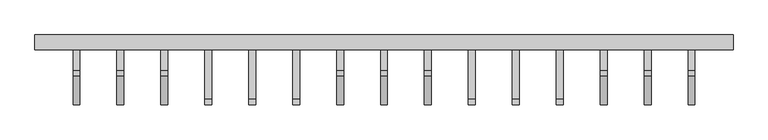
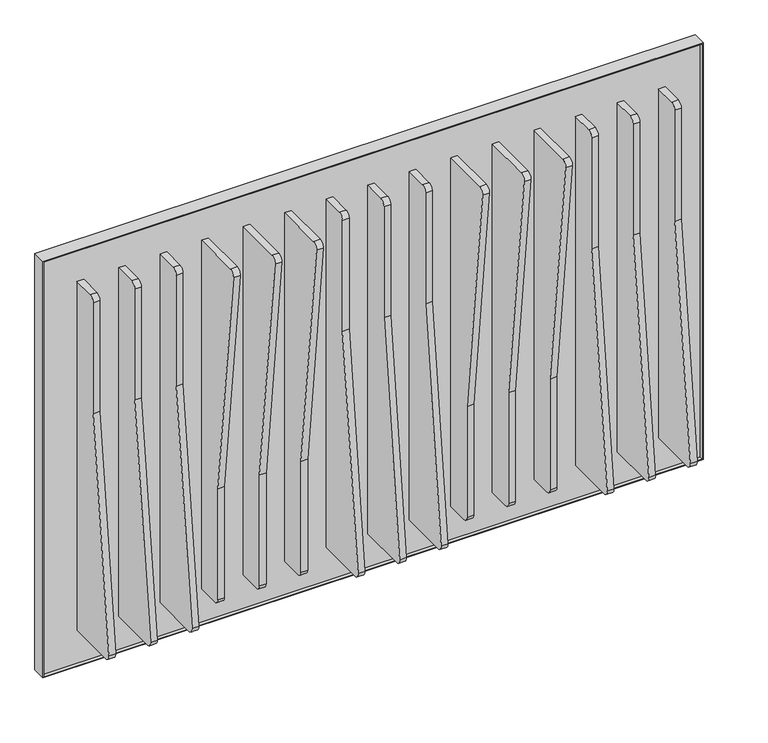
"""IFC4 building model written with IfcOpenShell, lengths in millimetres: proxy geometry, Frames_Plungle 5.3dm."""

from ifc_helpers import new_model, si_unit, point, frame, frame_2d, origin, place, context, project, spatial, polyline, circle_curve, trimmed, segment, composite_curve, outline, extrude, source, transform, mapped, element, save


def generic_models_a66e9d63(model_context):
    return source(origin(), model_context, "Body", "SweptSolid", [
        extrude(outline(composite_curve([segment(trimmed(circle_curve(frame_2d((109.527821, 643.1846741)), 10.0), [point((109.527821, 633.1846741))], [point((99.527821, 643.1846741))], False, "CARTESIAN"), True, "CONTINUOUS"), segment(polyline([(99.527821, 643.1846741), (99.527821, 857.3513408), (49.9884784, 1294.558793)]), True, "CONTINUOUS"), segment(trimmed(circle_curve(frame_2d((59.9248959, 1295.6846741)), 10.0), [point((49.9884784, 1294.558793))], [point((59.9248959, 1305.6846741))], False, "CARTESIAN"), True, "CONTINUOUS"), segment(polyline([(59.9248959, 1305.6846741), (151.027821, 1305.6846741), (151.027821, 633.1846741), (109.527821, 633.1846741)]), True, "CONTINUOUS")], self_intersect=False)), frame((3902.9725836, 0.0, 0.0), z_axis=(1.0, 0.0, 0.0), x_axis=(0.0, 1.0, 0.0)), (0.0, 0.0, 1.0), 12.0),
        extrude(outline(composite_curve([segment(trimmed(circle_curve(frame_2d((109.527821, 643.1846741)), 10.0), [point((109.527821, 633.1846741))], [point((99.527821, 643.1846741))], False, "CARTESIAN"), True, "CONTINUOUS"), segment(polyline([(99.527821, 643.1846741), (99.527821, 857.3513408), (49.9884784, 1294.558793)]), True, "CONTINUOUS"), segment(trimmed(circle_curve(frame_2d((59.9248959, 1295.6846741)), 10.0), [point((49.9884784, 1294.558793))], [point((59.9248959, 1305.6846741))], False, "CARTESIAN"), True, "CONTINUOUS"), segment(polyline([(59.9248959, 1305.6846741), (151.027821, 1305.6846741), (151.027821, 633.1846741), (109.527821, 633.1846741)]), True, "CONTINUOUS")], self_intersect=False)), frame((3978.7225836, 0.0, 0.0), z_axis=(1.0, 0.0, 0.0), x_axis=(0.0, 1.0, 0.0)), (0.0, 0.0, 1.0), 12.0),
        extrude(outline(composite_curve([segment(trimmed(circle_curve(frame_2d((109.527821, 643.1846741)), 10.0), [point((109.527821, 633.1846741))], [point((99.527821, 643.1846741))], False, "CARTESIAN"), True, "CONTINUOUS"), segment(polyline([(99.527821, 643.1846741), (99.527821, 857.3513408), (49.9884784, 1294.558793)]), True, "CONTINUOUS"), segment(trimmed(circle_curve(frame_2d((59.9248959, 1295.6846741)), 10.0), [point((49.9884784, 1294.558793))], [point((59.9248959, 1305.6846741))], False, "CARTESIAN"), True, "CONTINUOUS"), segment(polyline([(59.9248959, 1305.6846741), (151.027821, 1305.6846741), (151.027821, 633.1846741), (109.527821, 633.1846741)]), True, "CONTINUOUS")], self_intersect=False)), frame((4054.4725836, 0.0, 0.0), z_axis=(1.0, 0.0, 0.0), x_axis=(0.0, 1.0, 0.0)), (0.0, 0.0, 1.0), 12.0),
        extrude(outline(composite_curve([segment(trimmed(circle_curve(frame_2d((109.527821, 643.1846741)), 10.0), [point((109.527821, 633.1846741))], [point((99.527821, 643.1846741))], False, "CARTESIAN"), True, "CONTINUOUS"), segment(polyline([(99.527821, 643.1846741), (99.527821, 857.3513408), (49.9884784, 1294.558793)]), True, "CONTINUOUS"), segment(trimmed(circle_curve(frame_2d((59.9248959, 1295.6846741)), 10.0), [point((49.9884784, 1294.558793))], [point((59.9248959, 1305.6846741))], False, "CARTESIAN"), True, "CONTINUOUS"), segment(polyline([(59.9248959, 1305.6846741), (151.027821, 1305.6846741), (151.027821, 633.1846741), (109.527821, 633.1846741)]), True, "CONTINUOUS")], self_intersect=False)), frame((3448.4723487, 0.0, 0.0), z_axis=(1.0, 0.0, 0.0), x_axis=(0.0, 1.0, 0.0)), (0.0, 0.0, 1.0), 12.0),
        extrude(outline(composite_curve([segment(trimmed(circle_curve(frame_2d((109.527821, 643.1846741)), 10.0), [point((109.527821, 633.1846741))], [point((99.527821, 643.1846741))], False, "CARTESIAN"), True, "CONTINUOUS"), segment(polyline([(99.527821, 643.1846741), (99.527821, 857.3513408), (49.9884784, 1294.558793)]), True, "CONTINUOUS"), segment(trimmed(circle_curve(frame_2d((59.9248959, 1295.6846741)), 10.0), [point((49.9884784, 1294.558793))], [point((59.9248959, 1305.6846741))], False, "CARTESIAN"), True, "CONTINUOUS"), segment(polyline([(59.9248959, 1305.6846741), (151.027821, 1305.6846741), (151.027821, 633.1846741), (109.527821, 633.1846741)]), True, "CONTINUOUS")], self_intersect=False)), frame((3524.2223487, 0.0, 0.0), z_axis=(1.0, 0.0, 0.0), x_axis=(0.0, 1.0, 0.0)), (0.0, 0.0, 1.0), 12.0),
        extrude(outline(composite_curve([segment(trimmed(circle_curve(frame_2d((109.527821, 643.1846741)), 10.0), [point((109.527821, 633.1846741))], [point((99.527821, 643.1846741))], False, "CARTESIAN"), True, "CONTINUOUS"), segment(polyline([(99.527821, 643.1846741), (99.527821, 857.3513408), (49.9884784, 1294.558793)]), True, "CONTINUOUS"), segment(trimmed(circle_curve(frame_2d((59.9248959, 1295.6846741)), 10.0), [point((49.9884784, 1294.558793))], [point((59.9248959, 1305.6846741))], False, "CARTESIAN"), True, "CONTINUOUS"), segment(polyline([(59.9248959, 1305.6846741), (151.027821, 1305.6846741), (151.027821, 633.1846741), (109.527821, 633.1846741)]), True, "CONTINUOUS")], self_intersect=False)), frame((3599.9723487, 0.0, 0.0), z_axis=(1.0, 0.0, 0.0), x_axis=(0.0, 1.0, 0.0)), (0.0, 0.0, 1.0), 12.0),
        extrude(outline(composite_curve([segment(polyline([(109.527821, 1305.6846584), (151.027821, 1305.6846584), (151.027821, 633.1846584), (59.9248959, 633.1846584)]), True, "CONTINUOUS"), segment(trimmed(circle_curve(frame_2d((59.9248959, 643.1846584)), 10.0), [point((59.9248959, 633.1846584))], [point((49.9884784, 644.3105395))], False, "CARTESIAN"), True, "CONTINUOUS"), segment(polyline([(49.9884784, 644.3105395), (99.527821, 1081.5179917), (99.527821, 1295.6846584)]), True, "CONTINUOUS"), segment(trimmed(circle_curve(frame_2d((109.527821, 1295.6846584)), 10.0), [point((99.527821, 1295.6846584))], [point((109.527821, 1305.6846584))], False, "CARTESIAN"), True, "CONTINUOUS")], self_intersect=False)), frame((3221.2222082, 0.0, 0.0), z_axis=(1.0, 0.0, 0.0), x_axis=(0.0, 1.0, 0.0)), (0.0, 0.0, 1.0), 12.0),
        extrude(outline(composite_curve([segment(polyline([(109.527821, 1305.6846584), (151.027821, 1305.6846584), (151.027821, 633.1846584), (59.9248959, 633.1846584)]), True, "CONTINUOUS"), segment(trimmed(circle_curve(frame_2d((59.9248959, 643.1846584)), 10.0), [point((59.9248959, 633.1846584))], [point((49.9884784, 644.3105395))], False, "CARTESIAN"), True, "CONTINUOUS"), segment(polyline([(49.9884784, 644.3105395), (99.527821, 1081.5179917), (99.527821, 1295.6846584)]), True, "CONTINUOUS"), segment(trimmed(circle_curve(frame_2d((109.527821, 1295.6846584)), 10.0), [point((99.527821, 1295.6846584))], [point((109.527821, 1305.6846584))], False, "CARTESIAN"), True, "CONTINUOUS")], self_intersect=False)), frame((3296.9722082, 0.0, 0.0), z_axis=(1.0, 0.0, 0.0), x_axis=(0.0, 1.0, 0.0)), (0.0, 0.0, 1.0), 12.0),
        extrude(outline(composite_curve([segment(polyline([(109.527821, 1305.6846584), (151.027821, 1305.6846584), (151.027821, 633.1846584), (59.9248959, 633.1846584)]), True, "CONTINUOUS"), segment(trimmed(circle_curve(frame_2d((59.9248959, 643.1846584)), 10.0), [point((59.9248959, 633.1846584))], [point((49.9884784, 644.3105395))], False, "CARTESIAN"), True, "CONTINUOUS"), segment(polyline([(49.9884784, 644.3105395), (99.527821, 1081.5179917), (99.527821, 1295.6846584)]), True, "CONTINUOUS"), segment(trimmed(circle_curve(frame_2d((109.527821, 1295.6846584)), 10.0), [point((99.527821, 1295.6846584))], [point((109.527821, 1305.6846584))], False, "CARTESIAN"), True, "CONTINUOUS")], self_intersect=False)), frame((3372.7222082, 0.0, 0.0), z_axis=(1.0, 0.0, 0.0), x_axis=(0.0, 1.0, 0.0)), (0.0, 0.0, 1.0), 12.0),
        extrude(outline(composite_curve([segment(polyline([(109.527821, 1305.6846584), (151.027821, 1305.6846584), (151.027821, 633.1846584), (59.9248959, 633.1846584)]), True, "CONTINUOUS"), segment(trimmed(circle_curve(frame_2d((59.9248959, 643.1846584)), 10.0), [point((59.9248959, 633.1846584))], [point((49.9884784, 644.3105395))], False, "CARTESIAN"), True, "CONTINUOUS"), segment(polyline([(49.9884784, 644.3105395), (99.527821, 1081.5179917), (99.527821, 1295.6846584)]), True, "CONTINUOUS"), segment(trimmed(circle_curve(frame_2d((109.527821, 1295.6846584)), 10.0), [point((99.527821, 1295.6846584))], [point((109.527821, 1305.6846584))], False, "CARTESIAN"), True, "CONTINUOUS")], self_intersect=False)), frame((3675.7222082, 0.0, 0.0), z_axis=(1.0, 0.0, 0.0), x_axis=(0.0, 1.0, 0.0)), (0.0, 0.0, 1.0), 12.0),
        extrude(outline(composite_curve([segment(polyline([(109.527821, 1305.6846584), (151.027821, 1305.6846584), (151.027821, 633.1846584), (59.9248959, 633.1846584)]), True, "CONTINUOUS"), segment(trimmed(circle_curve(frame_2d((59.9248959, 643.1846584)), 10.0), [point((59.9248959, 633.1846584))], [point((49.9884784, 644.3105395))], False, "CARTESIAN"), True, "CONTINUOUS"), segment(polyline([(49.9884784, 644.3105395), (99.527821, 1081.5179917), (99.527821, 1295.6846584)]), True, "CONTINUOUS"), segment(trimmed(circle_curve(frame_2d((109.527821, 1295.6846584)), 10.0), [point((99.527821, 1295.6846584))], [point((109.527821, 1305.6846584))], False, "CARTESIAN"), True, "CONTINUOUS")], self_intersect=False)), frame((3751.4722082, 0.0, 0.0), z_axis=(1.0, 0.0, 0.0), x_axis=(0.0, 1.0, 0.0)), (0.0, 0.0, 1.0), 12.0),
        extrude(outline(composite_curve([segment(polyline([(109.527821, 1305.6846584), (151.027821, 1305.6846584), (151.027821, 633.1846584), (59.9248959, 633.1846584)]), True, "CONTINUOUS"), segment(trimmed(circle_curve(frame_2d((59.9248959, 643.1846584)), 10.0), [point((59.9248959, 633.1846584))], [point((49.9884784, 644.3105395))], False, "CARTESIAN"), True, "CONTINUOUS"), segment(polyline([(49.9884784, 644.3105395), (99.527821, 1081.5179917), (99.527821, 1295.6846584)]), True, "CONTINUOUS"), segment(trimmed(circle_curve(frame_2d((109.527821, 1295.6846584)), 10.0), [point((99.527821, 1295.6846584))], [point((109.527821, 1305.6846584))], False, "CARTESIAN"), True, "CONTINUOUS")], self_intersect=False)), frame((3827.2222082, 0.0, 0.0), z_axis=(1.0, 0.0, 0.0), x_axis=(0.0, 1.0, 0.0)), (0.0, 0.0, 1.0), 12.0),
        extrude(outline(composite_curve([segment(polyline([(109.527821, 1305.6846584), (151.027821, 1305.6846584), (151.027821, 633.1846584), (59.9248959, 633.1846584)]), True, "CONTINUOUS"), segment(trimmed(circle_curve(frame_2d((59.9248959, 643.1846584)), 10.0), [point((59.9248959, 633.1846584))], [point((49.9884784, 644.3105395))], False, "CARTESIAN"), True, "CONTINUOUS"), segment(polyline([(49.9884784, 644.3105395), (99.527821, 1081.5179917), (99.527821, 1295.6846584)]), True, "CONTINUOUS"), segment(trimmed(circle_curve(frame_2d((109.527821, 1295.6846584)), 10.0), [point((99.527821, 1295.6846584))], [point((109.527821, 1305.6846584))], False, "CARTESIAN"), True, "CONTINUOUS")], self_intersect=False)), frame((4130.2222082, 0.0, 0.0), z_axis=(1.0, 0.0, 0.0), x_axis=(0.0, 1.0, 0.0)), (0.0, 0.0, 1.0), 12.0),
        extrude(outline(composite_curve([segment(polyline([(109.527821, 1305.6846584), (151.027821, 1305.6846584), (151.027821, 633.1846584), (59.9248959, 633.1846584)]), True, "CONTINUOUS"), segment(trimmed(circle_curve(frame_2d((59.9248959, 643.1846584)), 10.0), [point((59.9248959, 633.1846584))], [point((49.9884784, 644.3105395))], False, "CARTESIAN"), True, "CONTINUOUS"), segment(polyline([(49.9884784, 644.3105395), (99.527821, 1081.5179917), (99.527821, 1295.6846584)]), True, "CONTINUOUS"), segment(trimmed(circle_curve(frame_2d((109.527821, 1295.6846584)), 10.0), [point((99.527821, 1295.6846584))], [point((109.527821, 1305.6846584))], False, "CARTESIAN"), True, "CONTINUOUS")], self_intersect=False)), frame((4205.9722082, 0.0, 0.0), z_axis=(1.0, 0.0, 0.0), x_axis=(0.0, 1.0, 0.0)), (0.0, 0.0, 1.0), 12.0),
        extrude(outline(composite_curve([segment(polyline([(109.527821, 1305.6846584), (151.027821, 1305.6846584), (151.027821, 633.1846584), (59.9248959, 633.1846584)]), True, "CONTINUOUS"), segment(trimmed(circle_curve(frame_2d((59.9248959, 643.1846584)), 10.0), [point((59.9248959, 633.1846584))], [point((49.9884784, 644.3105395))], False, "CARTESIAN"), True, "CONTINUOUS"), segment(polyline([(49.9884784, 644.3105395), (99.527821, 1081.5179917), (99.527821, 1295.6846584)]), True, "CONTINUOUS"), segment(trimmed(circle_curve(frame_2d((109.527821, 1295.6846584)), 10.0), [point((99.527821, 1295.6846584))], [point((109.527821, 1305.6846584))], False, "CARTESIAN"), True, "CONTINUOUS")], self_intersect=False)), frame((4281.7222082, 0.0, 0.0), z_axis=(1.0, 0.0, 0.0), x_axis=(0.0, 1.0, 0.0)), (0.0, 0.0, 1.0), 12.0),
        extrude(outline(polyline([(4357.4722082, 151.027821), (3157.4722082, 151.027821), (3157.4722082, 163.027821), (4357.4722082, 163.027821), (4357.4722082, 151.027821)])), frame((0.0, 0.0, 569.4346584), z_axis=(0.0, 0.0, 1.0), x_axis=(1.0, 0.0, 0.0)), (0.0, 0.0, 1.0), 800.0),
        extrude(outline(polyline([(567.4346584, 4359.4722082), (1371.4346584, 4359.4722082), (1371.4346584, 3155.4722082), (567.4346584, 3155.4722082), (567.4346584, 4359.4722082)]), holes=[polyline([(569.4346584, 4357.4722082), (569.4346584, 3157.4722082), (1369.4346584, 3157.4722082), (1369.4346584, 4357.4722082), (569.4346584, 4357.4722082)])]), frame((0.0, 144.677821, 0.0), z_axis=(0.0, 1.0, 0.0), x_axis=(0.0, 0.0, 1.0)), (0.0, 0.0, 1.0), 25.4),
    ])


if __name__ == "__main__":
    model = new_model("IFC4")
    model_context = context("Model", 3, world=origin())
    ifc_project = project(units=[si_unit("LENGTHUNIT", "METRE", prefix="MILLI")], contexts=[model_context])
    site = spatial("IfcSite", under=ifc_project)
    building = spatial("IfcBuilding", under=site)
    placement = place(None, origin())
    generic_models_shape = generic_models_a66e9d63(model_context)
    element("IfcBuildingElementProxy", 1, Name="Frames_Plungle 5.3dm", ObjectType="Frames_Plungle 5.3dm", at=placement, inside=building, context=model_context, shape_type="MappedRepresentation", body=[
        mapped(generic_models_shape, transform((0.0, 0.0, 0.0), x_axis=(1.0, 0.0, 0.0), y_axis=(0.0, 1.0, 0.0), z_axis=(0.0, 0.0, 1.0))),
    ])
    save(model, "model.ifc")
